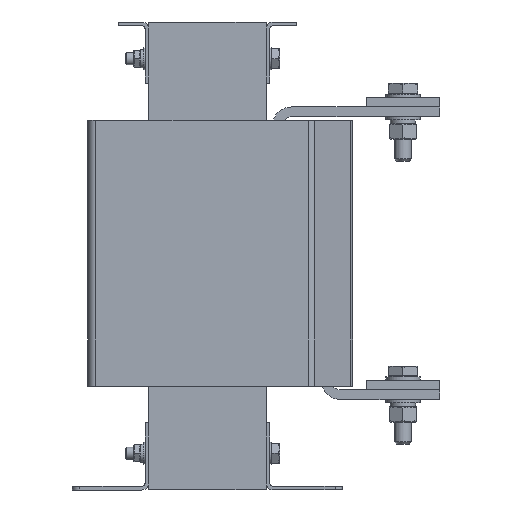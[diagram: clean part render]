
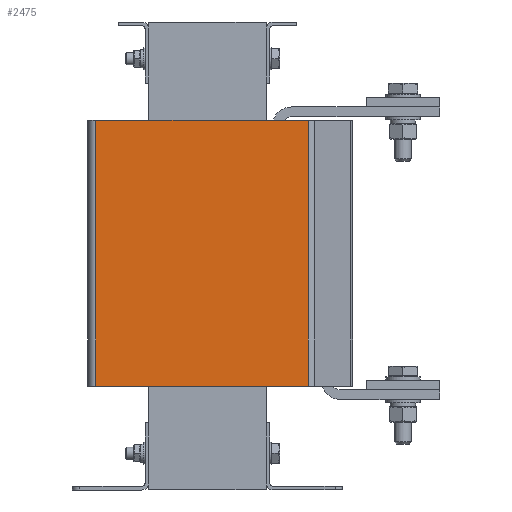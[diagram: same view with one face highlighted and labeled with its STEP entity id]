
A CAD part, front view. The second image highlights one B-rep face of the part: STEP entity #2475.
In plain terms, the highlighted planar face has unit normal (0, -1, 0).
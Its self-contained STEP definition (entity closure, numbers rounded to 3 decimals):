
#2475=ADVANCED_FACE('',(#3939),#3941,.T.);
#3939=FACE_BOUND('',#3940,.T.);
#3940=EDGE_LOOP('',(#5677,#5678,#5679,#5680));
#3941=PLANE('',#3942);
#3942=AXIS2_PLACEMENT_3D('',#3943,#3944,#3945);
#3943=CARTESIAN_POINT('',(-91.3,-150.7,85.));
#3944=DIRECTION('',(0.,-1.,0.));
#3945=DIRECTION('',(1.,0.,0.));
#5677=ORIENTED_EDGE('',*,*,#6450,.T.);
#5678=ORIENTED_EDGE('',*,*,#6523,.T.);
#5679=ORIENTED_EDGE('',*,*,#6476,.F.);
#5680=ORIENTED_EDGE('',*,*,#6524,.F.);
#6450=EDGE_CURVE('',#7206,#7204,#7207,.T.);
#6476=EDGE_CURVE('',#7250,#7252,#7253,.T.);
#6523=EDGE_CURVE('',#7204,#7252,#7317,.T.);
#6524=EDGE_CURVE('',#7206,#7250,#7318,.T.);
#7204=VERTEX_POINT('',#8742);
#7206=VERTEX_POINT('',#8747);
#7207=LINE('',#8748,#8749);
#7250=VERTEX_POINT('',#8846);
#7252=VERTEX_POINT('',#8851);
#7253=LINE('',#8852,#8853);
#7317=LINE('',#9017,#9018);
#7318=LINE('',#9020,#9021);
#8742=CARTESIAN_POINT('',(82.5,-150.7,85.));
#8747=CARTESIAN_POINT('',(-91.3,-150.7,85.));
#8748=CARTESIAN_POINT('',(-91.3,-150.7,85.));
#8749=VECTOR('',#8750,1.);
#8750=DIRECTION('',(1.,0.,0.));
#8846=CARTESIAN_POINT('',(-91.3,-150.7,302.5));
#8851=CARTESIAN_POINT('',(82.5,-150.7,302.5));
#8852=CARTESIAN_POINT('',(-91.3,-150.7,302.5));
#8853=VECTOR('',#8854,1.);
#8854=DIRECTION('',(1.,0.,0.));
#9017=CARTESIAN_POINT('',(82.5,-150.7,85.));
#9018=VECTOR('',#9019,1.);
#9019=DIRECTION('',(0.,0.,1.));
#9020=CARTESIAN_POINT('',(-91.3,-150.7,85.));
#9021=VECTOR('',#9022,1.);
#9022=DIRECTION('',(0.,0.,1.));
